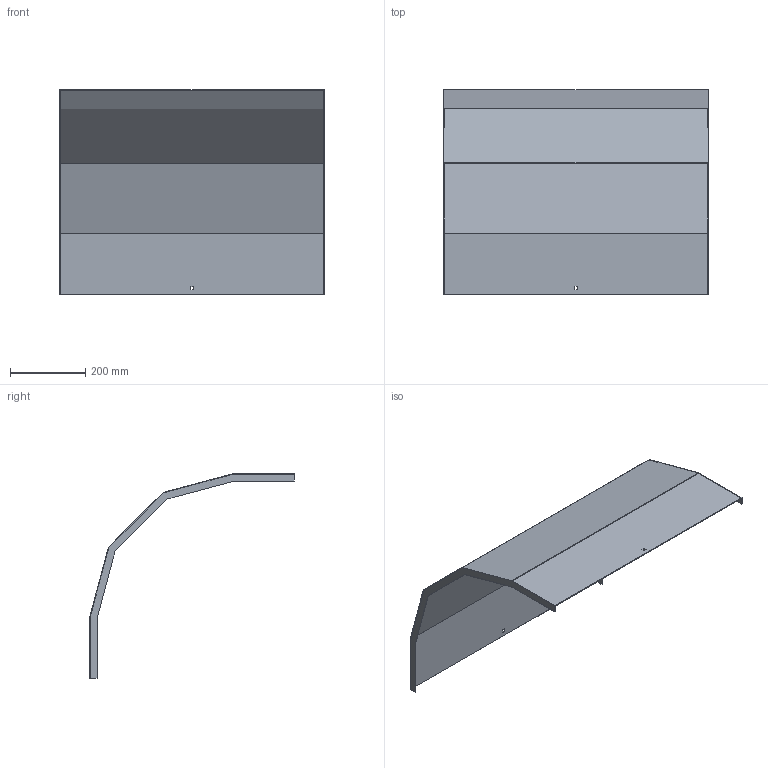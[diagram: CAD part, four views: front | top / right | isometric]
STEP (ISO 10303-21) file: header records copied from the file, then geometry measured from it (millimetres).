
FILE_DESCRIPTION (( 'STEP AP214' ), '1' );
FILE_NAME ('A2_33N3C700.step', '2025-02-21T10:44:38', ( '' ), ( '' ), 'SwSTEP 2.0', 'SolidWorks 2023', '' );
FILE_SCHEMA (( 'AUTOMOTIVE_DESIGN' ));
Length unit declared in the file: millimetre
Products named in the file (1): A2_33N3C700
Bounding box: 703 x 544.46 x 544.46 mm (x, y, z)
Volume: 1015441.3 mm3; surface area: 1358893.4 mm2
Topology: 1 solids, 1 shells, 34 faces, 96 edges, 64 vertices
Faces by surface type: plane 34
Entity records: 1111 total; most frequent: CARTESIAN_POINT 195, ORIENTED_EDGE 192, DIRECTION 166, VECTOR 96, EDGE_CURVE 96, LINE 96, VERTEX_POINT 64, EDGE_LOOP 38
